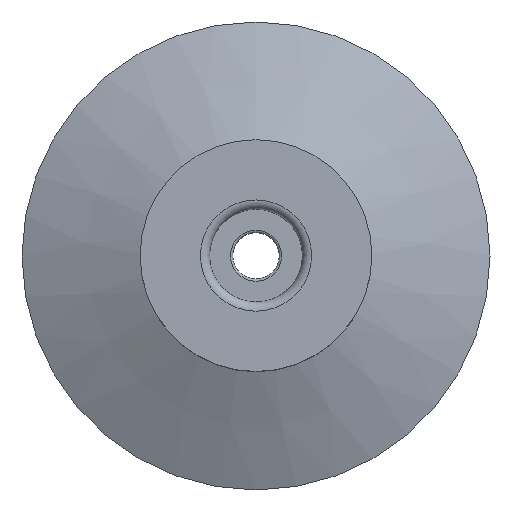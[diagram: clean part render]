
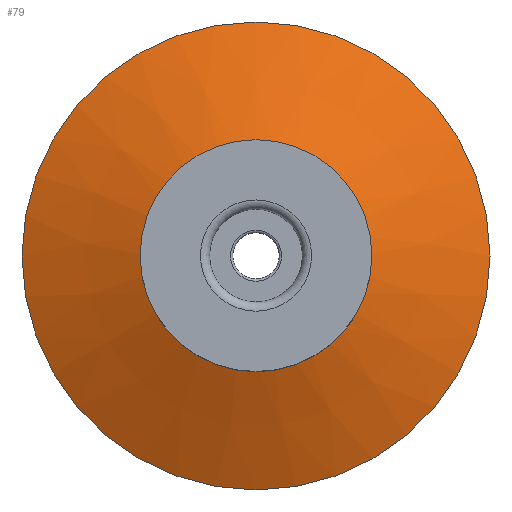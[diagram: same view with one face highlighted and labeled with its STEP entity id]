
A CAD part, top view. The second image highlights one B-rep face of the part: STEP entity #79.
In plain terms, the highlighted conical face has half-angle 67 degrees and reference radius 3.937 mm.
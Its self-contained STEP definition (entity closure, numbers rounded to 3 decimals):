
#79=ADVANCED_FACE('',(#141,#142),#143,.T.);
#141=FACE_BOUND('',#306,.T.);
#142=FACE_OUTER_BOUND('',#307,.T.);
#143=CONICAL_SURFACE('',#308,3.937,1.169);
#306=EDGE_LOOP('',(#479));
#307=EDGE_LOOP('',(#480));
#308=AXIS2_PLACEMENT_3D('',#481,#482,#483);
#479=ORIENTED_EDGE('',*,*,#741,.T.);
#480=ORIENTED_EDGE('',*,*,#742,.T.);
#481=CARTESIAN_POINT('',(0.0,0.,2.708));
#482=DIRECTION('',(0.0,0.,-1.0));
#483=DIRECTION('',(0.0,1.0,0.));
#741=EDGE_CURVE('',#801,#801,#802,.T.);
#742=EDGE_CURVE('',#803,#803,#804,.T.);
#801=VERTEX_POINT('',#911);
#802=CIRCLE('',#912,4.688);
#803=VERTEX_POINT('',#913);
#804=CIRCLE('',#914,10.095);
#911=CARTESIAN_POINT('',(0.0,4.688,2.39));
#912=AXIS2_PLACEMENT_3D('',#1026,#1027,#1028);
#913=CARTESIAN_POINT('',(0.0,-10.095,0.095));
#914=AXIS2_PLACEMENT_3D('',#1029,#1030,#1031);
#1026=CARTESIAN_POINT('',(0.0,0.,2.39));
#1027=DIRECTION('',(0.0,0.,-1.0));
#1028=DIRECTION('',(0.0,1.0,0.));
#1029=CARTESIAN_POINT('',(0.0,0.,0.095));
#1030=DIRECTION('',(0.0,0.,1.0));
#1031=DIRECTION('',(0.0,-1.0,0.));
